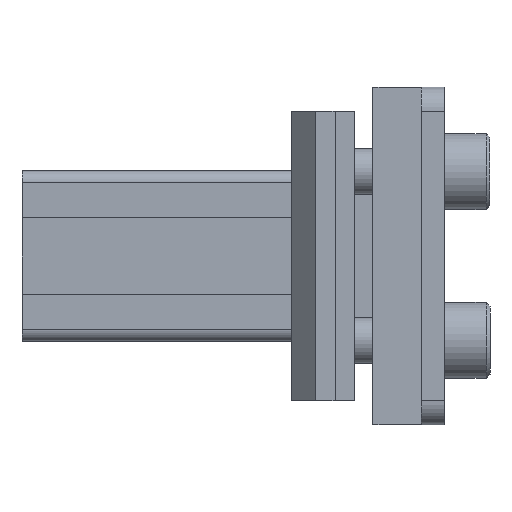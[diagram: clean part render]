
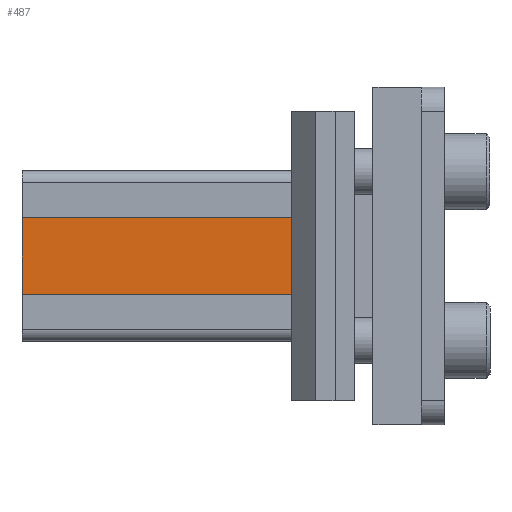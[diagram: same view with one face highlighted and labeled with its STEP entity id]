
A CAD part, front view. The second image highlights one B-rep face of the part: STEP entity #487.
In plain terms, the highlighted planar face has unit normal (0, -1, 0) as drawn and (1, 0, 0) by its records, which use the part's own axes.
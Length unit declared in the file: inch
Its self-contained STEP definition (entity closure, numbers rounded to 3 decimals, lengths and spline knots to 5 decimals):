
#487 = ADVANCED_FACE ( 'NONE', ( #849 ), #4539, .F. ) ;
#546 = EDGE_CURVE ( 'NONE', #626, #5330, #7881, .T. ) ;
#626 = VERTEX_POINT ( 'NONE', #4802 ) ;
#714 = EDGE_CURVE ( 'NONE', #5330, #4981, #5105, .T. ) ;
#849 = FACE_OUTER_BOUND ( 'NONE', #4670, .T. ) ;
#1630 = AXIS2_PLACEMENT_3D ( 'NONE', #3437, #5853, #5248 ) ;
#1682 = VERTEX_POINT ( 'NONE', #6347 ) ;
#1818 = CARTESIAN_POINT ( 'NONE',  ( 0.2795, 0.2917, 75. ) ) ;
#2168 = VECTOR ( 'NONE', #6734, 39.37008 ) ;
#2370 = DIRECTION ( 'NONE',  ( 0., 0., -1. ) ) ;
#2632 = EDGE_CURVE ( 'NONE', #1682, #626, #7743, .T. ) ;
#2656 = ORIENTED_EDGE ( 'NONE', *, *, #6918, .T. ) ;
#2937 = VECTOR ( 'NONE', #2370, 39.37008 ) ;
#3380 = CARTESIAN_POINT ( 'NONE',  ( 0.2795, 0.323, -0.85 ) ) ;
#3437 = CARTESIAN_POINT ( 'NONE',  ( 0.2795, 0.323, 75. ) ) ;
#4532 = DIRECTION ( 'NONE',  ( 0., -1., 0. ) ) ;
#4539 = PLANE ( 'NONE',  #1630 ) ;
#4670 = EDGE_LOOP ( 'NONE', ( #7152, #5492, #2656, #5643 ) ) ;
#4802 = CARTESIAN_POINT ( 'NONE',  ( 0.2795, -0.2917, 0.85 ) ) ;
#4932 = CARTESIAN_POINT ( 'NONE',  ( 0.2795, 0.2917, -0.85 ) ) ;
#4981 = VERTEX_POINT ( 'NONE', #4932 ) ;
#5105 = LINE ( 'NONE', #3380, #6084 ) ;
#5159 = VECTOR ( 'NONE', #4532, 39.37008 ) ;
#5248 = DIRECTION ( 'NONE',  ( 0., -1., 0. ) ) ;
#5330 = VERTEX_POINT ( 'NONE', #7279 ) ;
#5492 = ORIENTED_EDGE ( 'NONE', *, *, #714, .T. ) ;
#5643 = ORIENTED_EDGE ( 'NONE', *, *, #2632, .T. ) ;
#5845 = CARTESIAN_POINT ( 'NONE',  ( 0.2795, 0.323, 0.85 ) ) ;
#5853 = DIRECTION ( 'NONE',  ( -1., 0., 0. ) ) ;
#6084 = VECTOR ( 'NONE', #7603, 39.37008 ) ;
#6347 = CARTESIAN_POINT ( 'NONE',  ( 0.2795, 0.2917, 0.85 ) ) ;
#6734 = DIRECTION ( 'NONE',  ( 0., 0., 1. ) ) ;
#6753 = CARTESIAN_POINT ( 'NONE',  ( 0.2795, -0.2917, -75. ) ) ;
#6918 = EDGE_CURVE ( 'NONE', #4981, #1682, #7448, .T. ) ;
#7152 = ORIENTED_EDGE ( 'NONE', *, *, #546, .T. ) ;
#7279 = CARTESIAN_POINT ( 'NONE',  ( 0.2795, -0.2917, -0.85 ) ) ;
#7448 = LINE ( 'NONE', #1818, #2168 ) ;
#7603 = DIRECTION ( 'NONE',  ( 0., 1., 0. ) ) ;
#7743 = LINE ( 'NONE', #5845, #5159 ) ;
#7881 = LINE ( 'NONE', #6753, #2937 ) ;
